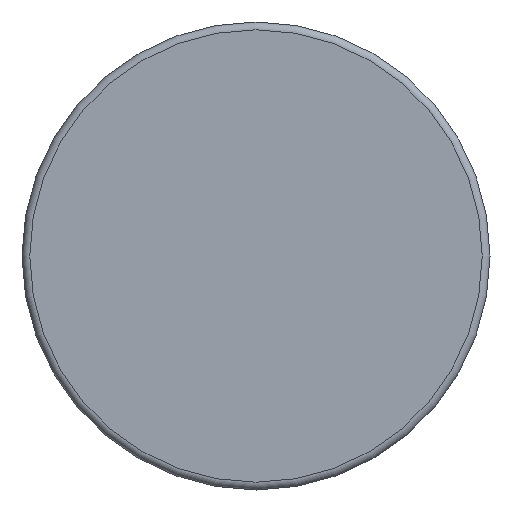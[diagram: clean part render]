
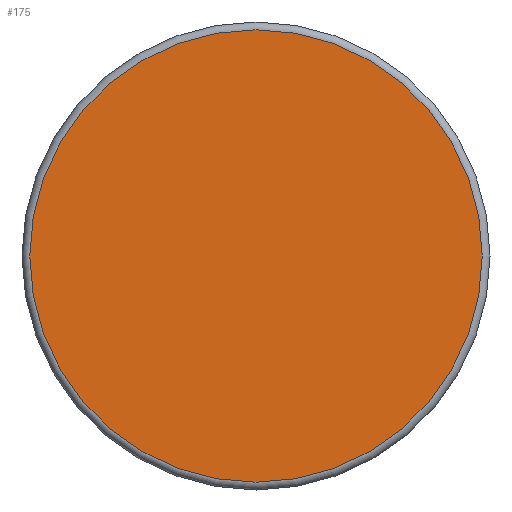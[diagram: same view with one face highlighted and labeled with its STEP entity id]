
A CAD part, front view. The second image highlights one B-rep face of the part: STEP entity #175.
In plain terms, the highlighted planar face has unit normal (0, -1, 0).
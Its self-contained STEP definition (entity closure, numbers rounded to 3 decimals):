
#175 = ADVANCED_FACE( '', ( #351 ), #352, .F. );
#351 = FACE_OUTER_BOUND( '', #551, .T. );
#352 = PLANE( '', #552 );
#551 = EDGE_LOOP( '', ( #806 ) );
#552 = AXIS2_PLACEMENT_3D( '', #807, #808, #809 );
#806 = ORIENTED_EDGE( '', *, *, #1158, .T. );
#807 = CARTESIAN_POINT( '', ( 29., 0., 0. ) );
#808 = DIRECTION( '', ( 0., 1., 0. ) );
#809 = DIRECTION( '', ( 0., 0., 1. ) );
#1158 = EDGE_CURVE( '', #1348, #1348, #1349, .T. );
#1348 = VERTEX_POINT( '', #1665 );
#1349 = CIRCLE( '', #1666, 29. );
#1665 = CARTESIAN_POINT( '', ( 0., 0., -29. ) );
#1666 = AXIS2_PLACEMENT_3D( '', #2071, #2072, #2073 );
#2071 = CARTESIAN_POINT( '', ( 0., 0., 0. ) );
#2072 = DIRECTION( '', ( 0., -1., 0. ) );
#2073 = DIRECTION( '', ( 0., 0., -1. ) );
